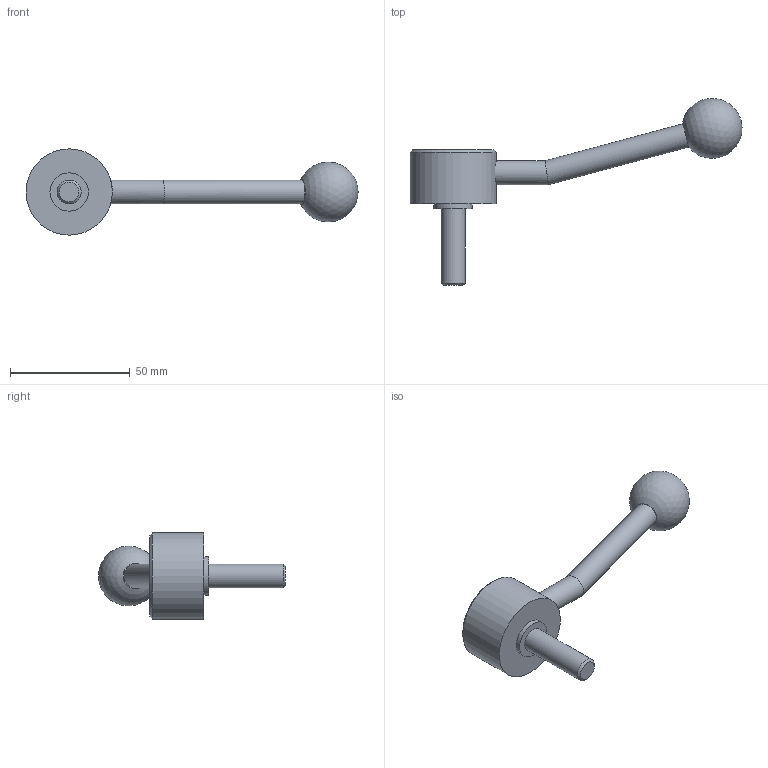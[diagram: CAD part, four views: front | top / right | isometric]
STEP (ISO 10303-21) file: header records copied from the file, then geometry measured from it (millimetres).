
FILE_DESCRIPTION( ( 'STEP AP203' ), '1' );
FILE_NAME( 'C:/Temp/Ganter_Step_05_03_2020/data/2_1/gn_125/gn_125_ms/gn_125_ms_e/Flat Adjustable Lever GN 125-36-M10-32-E.stp', '2020-03-05T11:00:58', ( 'License CC BY-ND 4.0' ), ( 'CADENAS' ), ' ', 'PARTsolutions', ' ' );
FILE_SCHEMA( ( 'CONFIG_CONTROL_DESIGN' ) );
Length unit declared in the file: millimetre
Products named in the file (1): _Flat Adjustable Lever GN 125-36-M10-32-E
Bounding box: 138.41 x 77.94 x 36 mm (x, y, z)
Volume: 40122.6 mm3; surface area: 9979.4 mm2
Topology: 1 solids, 1 shells, 15 faces, 25 edges, 16 vertices
Faces by surface type: cylinder 6, plane 6, cone 2, sphere 1
Full cylindrical faces by diameter (mm): 10 x3, 16 x1, 26 x1, 36 x1
Entity records: 412 total; most frequent: CARTESIAN_POINT 118, DIRECTION 58, AXIS2_PLACEMENT_3D 29, EDGE_LOOP 28, ORIENTED_EDGE 28, FACE_OUTER_BOUND 21, ADVANCED_FACE 15, VERTEX_POINT 15
